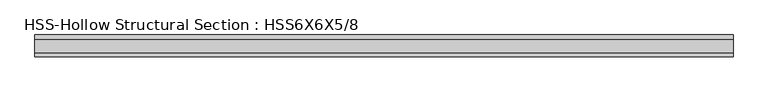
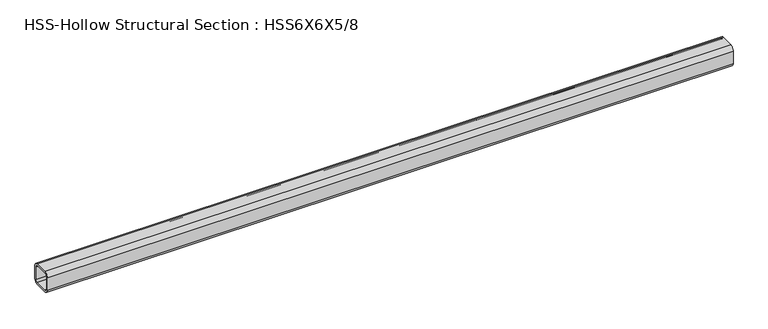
"""IFC4 building model written with IfcOpenShell, lengths in millimetres: beam geometry, HSS-Hollow Structural Section : HSS6X6X5/8."""

from ifc_helpers import new_model, si_unit, point, frame, frame_2d, origin, place, context, project, spatial, polyline, circle_curve, trimmed, segment, composite_curve, outline, extrude, source, transform, mapped, element, save


def hss_hollow_structural_section_hss6x6x5_8_3114ca23(model_context):
    return source(origin(), model_context, "Body", "SweptSolid", [
        extrude(outline(composite_curve([segment(polyline([(76.2, 46.6852), (76.2, -46.6852)]), True, "CONTINUOUS"), segment(trimmed(circle_curve(frame_2d((46.6852, -46.6852)), 29.5148), [point((76.2, -46.6852))], [point((46.6852, -76.2))], False, "CARTESIAN"), True, "CONTINUOUS"), segment(polyline([(46.6852, -76.2), (-46.6852, -76.2)]), True, "CONTINUOUS"), segment(trimmed(circle_curve(frame_2d((-46.6852, -46.6852)), 29.5148), [point((-46.6852, -76.2))], [point((-76.2, -46.6852))], False, "CARTESIAN"), True, "CONTINUOUS"), segment(polyline([(-76.2, -46.6852), (-76.2, 46.6852)]), True, "CONTINUOUS"), segment(trimmed(circle_curve(frame_2d((-46.6852, 46.6852)), 29.5148), [point((-76.2, 46.6852))], [point((-46.6852, 76.2))], False, "CARTESIAN"), True, "CONTINUOUS"), segment(polyline([(-46.6852, 76.2), (46.6852, 76.2)]), True, "CONTINUOUS"), segment(trimmed(circle_curve(frame_2d((46.6852, 46.6852)), 29.5148), [point((46.6852, 76.2))], [point((76.2, 46.6852))], False, "CARTESIAN"), True, "CONTINUOUS")], self_intersect=False), holes=[composite_curve([segment(trimmed(circle_curve(frame_2d((-46.6852, 46.6852)), 14.7574), [point((-46.6852, 61.4426))], [point((-61.4426, 46.6852))], True, "CARTESIAN"), True, "CONTINUOUS"), segment(polyline([(-61.4426, 46.6852), (-61.4426, -46.6852)]), True, "CONTINUOUS"), segment(trimmed(circle_curve(frame_2d((-46.6852, -46.6852)), 14.7574), [point((-61.4426, -46.6852))], [point((-46.6852, -61.4426))], True, "CARTESIAN"), True, "CONTINUOUS"), segment(polyline([(-46.6852, -61.4426), (46.6852, -61.4426)]), True, "CONTINUOUS"), segment(trimmed(circle_curve(frame_2d((46.6852, -46.6852)), 14.7574), [point((46.6852, -61.4426))], [point((61.4426, -46.6852))], True, "CARTESIAN"), True, "CONTINUOUS"), segment(polyline([(61.4426, -46.6852), (61.4426, 46.6852)]), True, "CONTINUOUS"), segment(trimmed(circle_curve(frame_2d((46.6852, 46.6852)), 14.7574), [point((61.4426, 46.6852))], [point((46.6852, 61.4426))], True, "CARTESIAN"), True, "CONTINUOUS"), segment(polyline([(46.6852, 61.4426), (-46.6852, 61.4426)]), True, "CONTINUOUS")], self_intersect=False)]), frame((-2437.60625, 0.0, 0.0), z_axis=(1.0, 0.0, 0.0), x_axis=(0.0, 1.0, 0.0)), (0.0, 0.0, 1.0), 4875.2125),
    ])


if __name__ == "__main__":
    model = new_model("IFC4")
    model_context = context("Model", 3, world=origin())
    ifc_project = project(units=[si_unit("LENGTHUNIT", "METRE", prefix="MILLI")], contexts=[model_context])
    site = spatial("IfcSite", under=ifc_project)
    building = spatial("IfcBuilding", under=site)
    placement = place(None, origin())
    hss_hollow_structural_section_hss6x6x5_8_shape = hss_hollow_structural_section_hss6x6x5_8_3114ca23(model_context)
    element("IfcBeam", 1, ObjectType="HSS-Hollow Structural Section : HSS6X6X5/8", at=placement, inside=building, context=model_context, shape_type="MappedRepresentation", body=[
        mapped(hss_hollow_structural_section_hss6x6x5_8_shape, transform((0.0, 0.0, 0.0), x_axis=(1.0, 0.0, 0.0), y_axis=(0.0, 1.0, 0.0), z_axis=(0.0, 0.0, 1.0))),
    ])
    save(model, "model.ifc")
